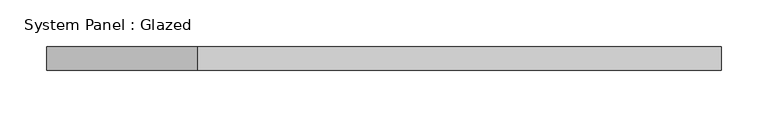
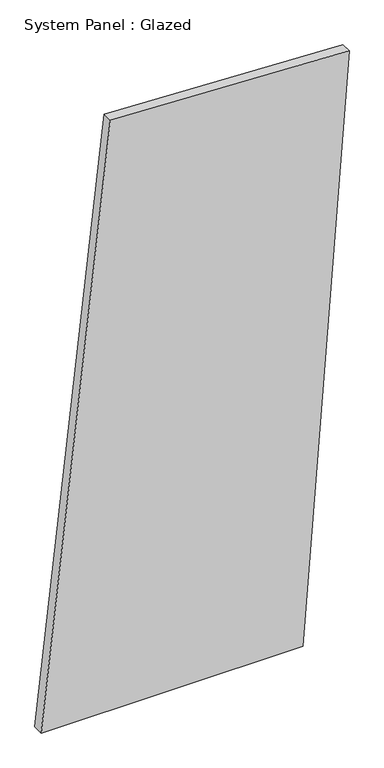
"""IFC4 building model written with IfcOpenShell, lengths in millimetres: plate geometry, System Panel : Glazed."""

from ifc_helpers import new_model, si_unit, frame, origin, place, context, project, spatial, polyline, outline, extrude, source, transform, mapped, element, save


def system_panel_glazed_afc54b63(model_context):
    return source(origin(), model_context, "Body", "SweptSolid", [
        extrude(outline(polyline([(0.0, -362.5075449), (0.0, 253.4943178), (1442.2029559, 362.5075449), (1466.063492, -199.904199), (0.0, -362.5075449)])), frame((0.0, -44.45, 0.0), z_axis=(0.0, 1.0, 0.0), x_axis=(0.0, 0.0, 1.0)), (0.0, 0.0, 1.0), 25.4),
    ])


if __name__ == "__main__":
    model = new_model("IFC4")
    model_context = context("Model", 3, world=origin())
    ifc_project = project(units=[si_unit("LENGTHUNIT", "METRE", prefix="MILLI")], contexts=[model_context])
    site = spatial("IfcSite", under=ifc_project)
    building = spatial("IfcBuilding", under=site)
    placement = place(None, origin())
    system_panel_glazed_shape = system_panel_glazed_afc54b63(model_context)
    element("IfcPlate", 1, ObjectType="System Panel : Glazed", at=placement, inside=building, context=model_context, shape_type="MappedRepresentation", body=[
        mapped(system_panel_glazed_shape, transform((0.0, 0.0, 0.0), x_axis=(1.0, 0.0, 0.0), y_axis=(0.0, 1.0, 0.0), z_axis=(0.0, 0.0, 1.0))),
    ])
    save(model, "model.ifc")
